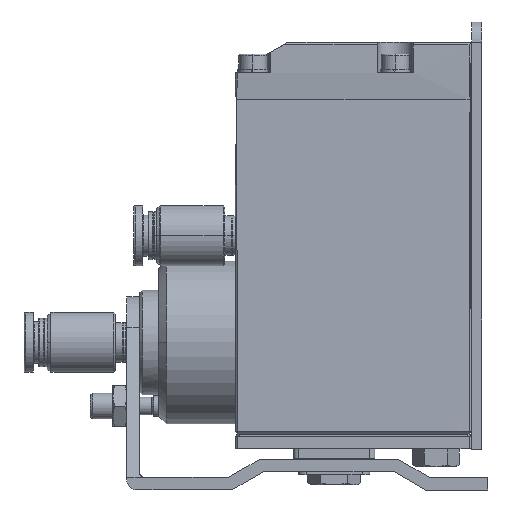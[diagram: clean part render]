
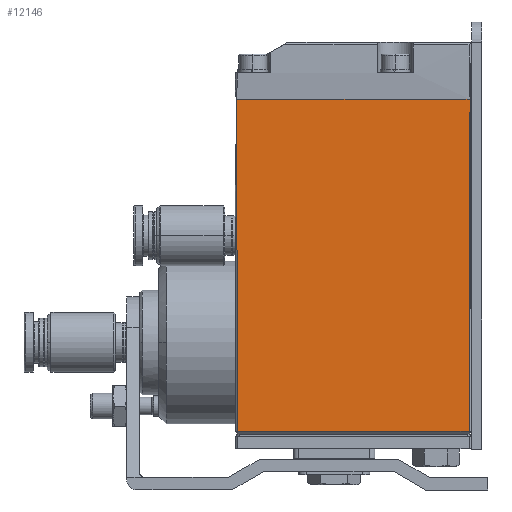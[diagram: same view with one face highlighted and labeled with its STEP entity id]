
A CAD part, left-side view. The second image highlights one B-rep face of the part: STEP entity #12146.
In plain terms, the highlighted planar face has unit normal (-1, 0, 0).
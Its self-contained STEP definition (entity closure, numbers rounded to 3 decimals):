
#443 = CARTESIAN_POINT ( 'NONE',  ( 0., 23.25, 0.5 ) ) ;
#554 = ORIENTED_EDGE ( 'NONE', *, *, #48047, .T. ) ;
#1442 = CARTESIAN_POINT ( 'NONE',  ( 0., 0.5, 33. ) ) ;
#5567 = ORIENTED_EDGE ( 'NONE', *, *, #49122, .T. ) ;
#6509 = LINE ( 'NONE', #1442, #16668 ) ;
#10147 = FACE_OUTER_BOUND ( 'NONE', #16986, .T. ) ;
#10859 = CARTESIAN_POINT ( 'NONE',  ( 0., 23.25, 65.5 ) ) ;
#12146 = ADVANCED_FACE ( 'NONE', ( #10147 ), #39166, .T. ) ;
#12817 = ORIENTED_EDGE ( 'NONE', *, *, #30158, .T. ) ;
#13377 = VERTEX_POINT ( 'NONE', #37265 ) ;
#13836 = VECTOR ( 'NONE', #39744, 1000. ) ;
#14313 = CARTESIAN_POINT ( 'NONE',  ( 0.23, 0.299, 65.786 ) ) ;
#16107 = VECTOR ( 'NONE', #19488, 1000. ) ;
#16668 = VECTOR ( 'NONE', #24211, 1000. ) ;
#16986 = EDGE_LOOP ( 'NONE', ( #554, #19822, #5567, #12817 ) ) ;
#19488 = DIRECTION ( 'NONE',  ( 0., 1., 0. ) ) ;
#19822 = ORIENTED_EDGE ( 'NONE', *, *, #48959, .F. ) ;
#19876 = VERTEX_POINT ( 'NONE', #43540 ) ;
#20637 = VECTOR ( 'NONE', #41156, 1000. ) ;
#24211 = DIRECTION ( 'NONE',  ( 0., 0., 1. ) ) ;
#30158 = EDGE_CURVE ( 'NONE', #40265, #19876, #48703, .T. ) ;
#31390 = CARTESIAN_POINT ( 'NONE',  ( 0., 46., 33. ) ) ;
#33541 = CARTESIAN_POINT ( 'NONE',  ( 0., 0.5, 0.5 ) ) ;
#35580 = AXIS2_PLACEMENT_3D ( 'NONE', #38378, #38448, #38269 ) ;
#37265 = CARTESIAN_POINT ( 'NONE',  ( 0., 46., 0.5 ) ) ;
#38269 = DIRECTION ( 'NONE',  ( 0., 0., 1. ) ) ;
#38378 = CARTESIAN_POINT ( 'NONE',  ( 0., -4.05, -6. ) ) ;
#38448 = DIRECTION ( 'NONE',  ( -1., 0., 0. ) ) ;
#39166 = PLANE ( 'NONE',  #35580 ) ;
#39744 = DIRECTION ( 'NONE',  ( 0., 0., -1. ) ) ;
#40265 = VERTEX_POINT ( 'NONE', #14313 ) ;
#41156 = DIRECTION ( 'NONE',  ( 0., 1., 0. ) ) ;
#41282 = VERTEX_POINT ( 'NONE', #33541 ) ;
#43540 = CARTESIAN_POINT ( 'NONE',  ( 0.23, 46.201, 65.786 ) ) ;
#44162 = LINE ( 'NONE', #31390, #13836 ) ;
#46449 = LINE ( 'NONE', #443, #16107 ) ;
#48047 = EDGE_CURVE ( 'NONE', #19876, #13377, #44162, .T. ) ;
#48703 = LINE ( 'NONE', #10859, #20637 ) ;
#48959 = EDGE_CURVE ( 'NONE', #41282, #13377, #46449, .T. ) ;
#49122 = EDGE_CURVE ( 'NONE', #41282, #40265, #6509, .T. ) ;
